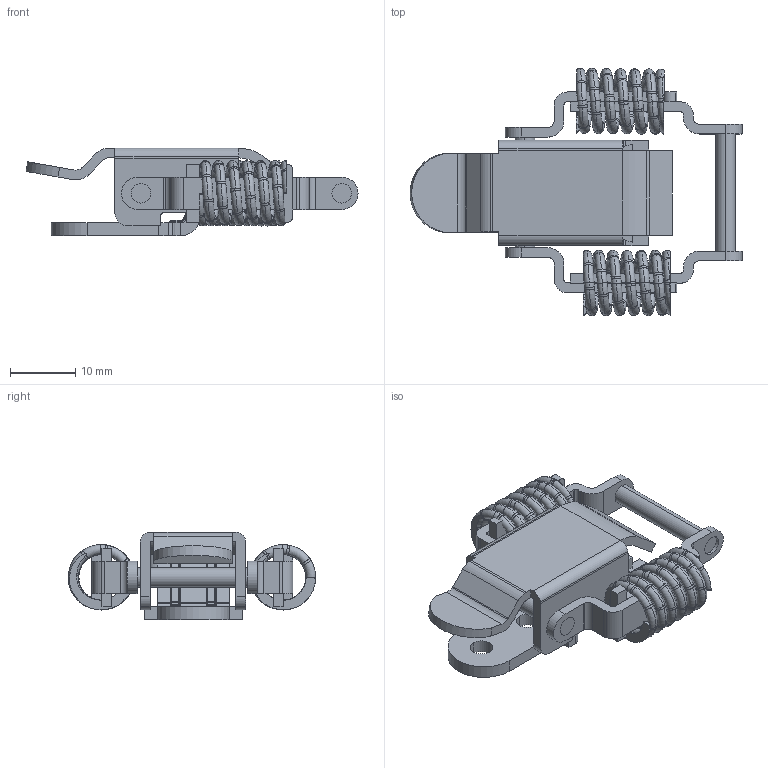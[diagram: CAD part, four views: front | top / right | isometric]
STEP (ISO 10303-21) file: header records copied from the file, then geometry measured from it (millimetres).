
FILE_DESCRIPTION((''),'2;1');
FILE_NAME('1034.stp','2013-11-29T12:29:45',(''),(''),'Mechanical Desktop 2006','Mechanical Desktop 2006',', , ');
FILE_SCHEMA(('CONFIG_CONTROL_DESIGN'));
Length unit declared in the file: millimetre
Products named in the file (14): 1034; 1034.111; ~~~~~~TEIL1; 1034.2; 1034.3; ~~~~TEIL1; 1034.4; ~~TEIL1; 1034.33; ~~~TEIL1; DRUCKFEDER - 1.500000 X 8.500000 X 13.358407; DRUCKFEDER - 1.500000 X 8.500000 X 13.451605; TEIL1; ~~~~~TEIL1
Assembly tree (15 placements, depth 3):
  1034
    1034.111
      ~~~~~~TEIL1
    1034.2
    1034.3
      ~~~~TEIL1
    1034.4  x2
      ~~TEIL1
    1034.33
      ~~~TEIL1
    DRUCKFEDER - 1.500000 X 8.500000 X 13.358407
    DRUCKFEDER - 1.500000 X 8.500000 X 13.451605
    TEIL1  x2
    ~~~~~TEIL1
Bounding box: 51.02 x 38.02 x 13.48 mm (x, y, z)
Volume: 3920.9 mm3; surface area: 6976.7 mm2
Topology: 10 solids, 10 shells, 897 faces, 2643 edges, 1766 vertices
Faces by surface type: cylinder 425, torus 290, plane 142, bspline 40
Entity records: 31184 total; most frequent: CARTESIAN_POINT 6670, DIRECTION 5877, ORIENTED_EDGE 5010, AXIS2_PLACEMENT_3D 2609, EDGE_CURVE 2505, CIRCLE 1698, VERTEX_POINT 1674, EDGE_LOOP 859
